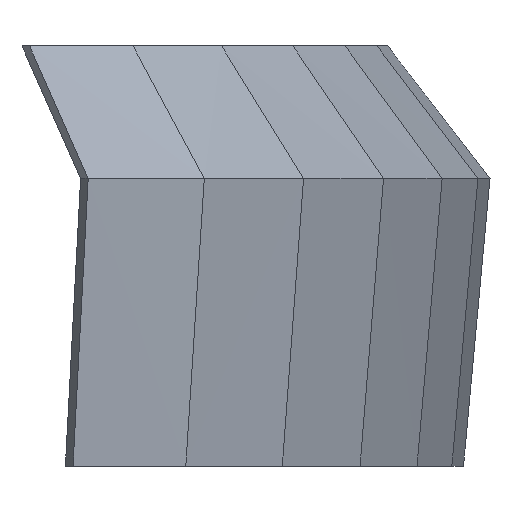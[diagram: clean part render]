
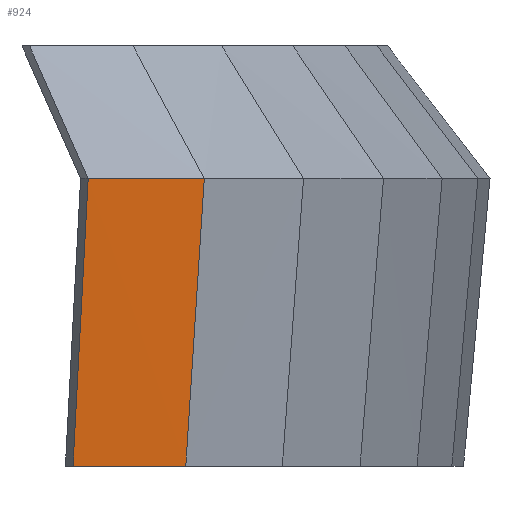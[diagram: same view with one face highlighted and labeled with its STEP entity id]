
A CAD part, left-side view. The second image highlights one B-rep face of the part: STEP entity #924.
In plain terms, the highlighted free-form (B-spline) face has degree [1, 1] with [2, 2] control points.
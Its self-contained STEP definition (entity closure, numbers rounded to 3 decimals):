
#43 = PLANE('',#44);
#44 = AXIS2_PLACEMENT_3D('',#45,#46,#47);
#45 = CARTESIAN_POINT('',(218.714,-138.805,14.));
#46 = DIRECTION('',(0.,0.,1.));
#47 = DIRECTION('',(-1.,0.,0.));
#807 = B_SPLINE_SURFACE_WITH_KNOTS('',1,1,(
    (#808,#809)
    ,(#810,#811
    )),.UNSPECIFIED.,.F.,.F.,.F.,(2,2),(2,2),(0.,42.382),(0.,1.
    ),.PIECEWISE_BEZIER_KNOTS.);
#808 = CARTESIAN_POINT('',(-159.441,-194.114,14.));
#809 = CARTESIAN_POINT('',(-165.413,-199.729,90.));
#810 = CARTESIAN_POINT('',(-191.523,-168.613,14.));
#811 = CARTESIAN_POINT('',(-198.697,-173.49,90.));
#850 = VERTEX_POINT('',#851);
#851 = CARTESIAN_POINT('',(-191.523,-168.613,14.));
#871 = EDGE_CURVE('',#850,#872,#874,.T.);
#872 = VERTEX_POINT('',#873);
#873 = CARTESIAN_POINT('',(-198.697,-173.49,90.));
#874 = SURFACE_CURVE('',#875,(#878,#885),.PCURVE_S1.);
#875 = B_SPLINE_CURVE_WITH_KNOTS('',1,(#876,#877),.UNSPECIFIED.,.F.,.F.,
  (2,2),(0.,1.),.PIECEWISE_BEZIER_KNOTS.);
#876 = CARTESIAN_POINT('',(-191.523,-168.613,14.));
#877 = CARTESIAN_POINT('',(-198.697,-173.49,90.));
#878 = PCURVE('',#807,#879);
#879 = DEFINITIONAL_REPRESENTATION('',(#880),#884);
#880 = LINE('',#881,#882);
#881 = CARTESIAN_POINT('',(42.382,0.));
#882 = VECTOR('',#883,1.);
#883 = DIRECTION('',(0.,1.));
#884 = ( GEOMETRIC_REPRESENTATION_CONTEXT(2) 
PARAMETRIC_REPRESENTATION_CONTEXT() REPRESENTATION_CONTEXT('2D SPACE',''
  ) );
#885 = PCURVE('',#886,#891);
#886 = B_SPLINE_SURFACE_WITH_KNOTS('',1,1,(
    (#887,#888)
    ,(#889,#890
    )),.UNSPECIFIED.,.F.,.F.,.F.,(2,2),(2,2),(0.,41.67),(0.,1.
    ),.PIECEWISE_BEZIER_KNOTS.);
#887 = CARTESIAN_POINT('',(-191.523,-168.613,14.));
#888 = CARTESIAN_POINT('',(-198.697,-173.49,90.));
#889 = CARTESIAN_POINT('',(-218.714,-138.805,14.));
#890 = CARTESIAN_POINT('',(-226.905,-142.821,90.));
#891 = DEFINITIONAL_REPRESENTATION('',(#892),#896);
#892 = LINE('',#893,#894);
#893 = CARTESIAN_POINT('',(0.,0.));
#894 = VECTOR('',#895,1.);
#895 = DIRECTION('',(0.,1.));
#896 = ( GEOMETRIC_REPRESENTATION_CONTEXT(2) 
PARAMETRIC_REPRESENTATION_CONTEXT() REPRESENTATION_CONTEXT('2D SPACE',''
  ) );
#924 = ADVANCED_FACE('',(#925),#886,.F.);
#925 = FACE_BOUND('',#926,.F.);
#926 = EDGE_LOOP('',(#927,#949,#976,#1002));
#927 = ORIENTED_EDGE('',*,*,#928,.T.);
#928 = EDGE_CURVE('',#850,#929,#931,.T.);
#929 = VERTEX_POINT('',#930);
#930 = CARTESIAN_POINT('',(-218.714,-138.805,14.));
#931 = SURFACE_CURVE('',#932,(#936,#942),.PCURVE_S1.);
#932 = LINE('',#933,#934);
#933 = CARTESIAN_POINT('',(-191.523,-168.613,14.));
#934 = VECTOR('',#935,1.);
#935 = DIRECTION('',(-0.674,0.739,0.));
#936 = PCURVE('',#886,#937);
#937 = DEFINITIONAL_REPRESENTATION('',(#938),#941);
#938 = B_SPLINE_CURVE_WITH_KNOTS('',1,(#939,#940),.UNSPECIFIED.,.F.,.F.,
  (2,2),(0.,40.346),.PIECEWISE_BEZIER_KNOTS.);
#939 = CARTESIAN_POINT('',(0.,0.));
#940 = CARTESIAN_POINT('',(41.67,0.));
#941 = ( GEOMETRIC_REPRESENTATION_CONTEXT(2) 
PARAMETRIC_REPRESENTATION_CONTEXT() REPRESENTATION_CONTEXT('2D SPACE',''
  ) );
#942 = PCURVE('',#43,#943);
#943 = DEFINITIONAL_REPRESENTATION('',(#944),#948);
#944 = LINE('',#945,#946);
#945 = CARTESIAN_POINT('',(410.237,29.807));
#946 = VECTOR('',#947,1.);
#947 = DIRECTION('',(0.674,-0.739));
#948 = ( GEOMETRIC_REPRESENTATION_CONTEXT(2) 
PARAMETRIC_REPRESENTATION_CONTEXT() REPRESENTATION_CONTEXT('2D SPACE',''
  ) );
#949 = ORIENTED_EDGE('',*,*,#950,.T.);
#950 = EDGE_CURVE('',#929,#951,#953,.T.);
#951 = VERTEX_POINT('',#952);
#952 = CARTESIAN_POINT('',(-226.905,-142.821,90.));
#953 = SURFACE_CURVE('',#954,(#957,#964),.PCURVE_S1.);
#954 = B_SPLINE_CURVE_WITH_KNOTS('',1,(#955,#956),.UNSPECIFIED.,.F.,.F.,
  (2,2),(0.,1.),.PIECEWISE_BEZIER_KNOTS.);
#955 = CARTESIAN_POINT('',(-218.714,-138.805,14.));
#956 = CARTESIAN_POINT('',(-226.905,-142.821,90.));
#957 = PCURVE('',#886,#958);
#958 = DEFINITIONAL_REPRESENTATION('',(#959),#963);
#959 = LINE('',#960,#961);
#960 = CARTESIAN_POINT('',(41.67,0.));
#961 = VECTOR('',#962,1.);
#962 = DIRECTION('',(0.,1.));
#963 = ( GEOMETRIC_REPRESENTATION_CONTEXT(2) 
PARAMETRIC_REPRESENTATION_CONTEXT() REPRESENTATION_CONTEXT('2D SPACE',''
  ) );
#964 = PCURVE('',#965,#970);
#965 = B_SPLINE_SURFACE_WITH_KNOTS('',1,1,(
    (#966,#967)
    ,(#968,#969
  )),.UNSPECIFIED.,.F.,.F.,.F.,(2,2),(2,2),(0.,3.5),(0.,1.),
  .PIECEWISE_BEZIER_KNOTS.);
#966 = CARTESIAN_POINT('',(-218.714,-138.805,14.));
#967 = CARTESIAN_POINT('',(-226.905,-142.821,90.));
#968 = CARTESIAN_POINT('',(-215.847,-136.798,14.));
#969 = CARTESIAN_POINT('',(-224.038,-140.813,90.));
#970 = DEFINITIONAL_REPRESENTATION('',(#971),#975);
#971 = LINE('',#972,#973);
#972 = CARTESIAN_POINT('',(0.,0.));
#973 = VECTOR('',#974,1.);
#974 = DIRECTION('',(0.,1.));
#975 = ( GEOMETRIC_REPRESENTATION_CONTEXT(2) 
PARAMETRIC_REPRESENTATION_CONTEXT() REPRESENTATION_CONTEXT('2D SPACE',''
  ) );
#976 = ORIENTED_EDGE('',*,*,#977,.F.);
#977 = EDGE_CURVE('',#872,#951,#978,.T.);
#978 = SURFACE_CURVE('',#979,(#983,#990),.PCURVE_S1.);
#979 = LINE('',#980,#981);
#980 = CARTESIAN_POINT('',(-198.697,-173.49,90.));
#981 = VECTOR('',#982,1.);
#982 = DIRECTION('',(-0.677,0.736,0.));
#983 = PCURVE('',#886,#984);
#984 = DEFINITIONAL_REPRESENTATION('',(#985),#989);
#985 = LINE('',#986,#987);
#986 = CARTESIAN_POINT('',(0.,1.));
#987 = VECTOR('',#988,1.);
#988 = DIRECTION('',(1.,0.));
#989 = ( GEOMETRIC_REPRESENTATION_CONTEXT(2) 
PARAMETRIC_REPRESENTATION_CONTEXT() REPRESENTATION_CONTEXT('2D SPACE',''
  ) );
#990 = PCURVE('',#991,#996);
#991 = B_SPLINE_SURFACE_WITH_KNOTS('',1,1,(
    (#992,#993)
    ,(#994,#995
    )),.UNSPECIFIED.,.F.,.F.,.F.,(2,2),(2,2),(0.,41.67),(0.,1.
    ),.PIECEWISE_BEZIER_KNOTS.);
#992 = CARTESIAN_POINT('',(-198.697,-173.49,90.));
#993 = CARTESIAN_POINT('',(-168.569,-154.678,125.));
#994 = CARTESIAN_POINT('',(-226.905,-142.821,90.));
#995 = CARTESIAN_POINT('',(-192.501,-127.334,125.));
#996 = DEFINITIONAL_REPRESENTATION('',(#997),#1001);
#997 = LINE('',#998,#999);
#998 = CARTESIAN_POINT('',(0.,0.));
#999 = VECTOR('',#1000,1.);
#1000 = DIRECTION('',(1.,0.));
#1001 = ( GEOMETRIC_REPRESENTATION_CONTEXT(2) 
PARAMETRIC_REPRESENTATION_CONTEXT() REPRESENTATION_CONTEXT('2D SPACE',''
  ) );
#1002 = ORIENTED_EDGE('',*,*,#871,.F.);
